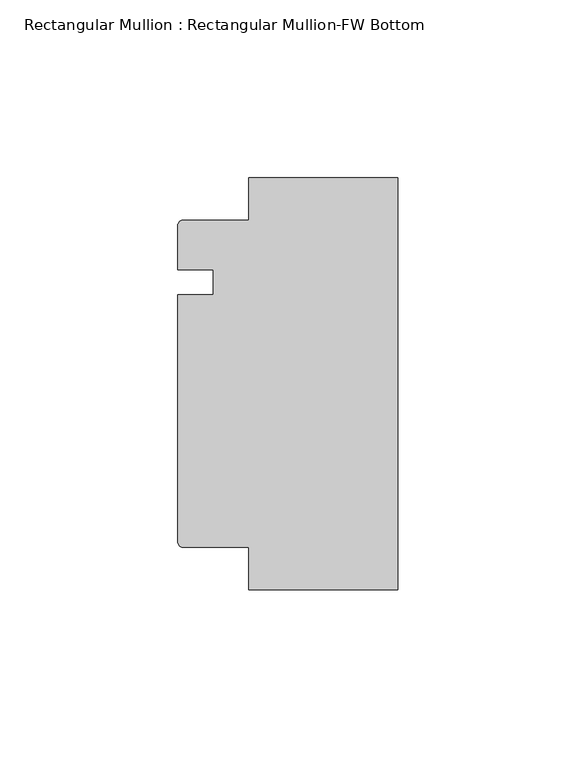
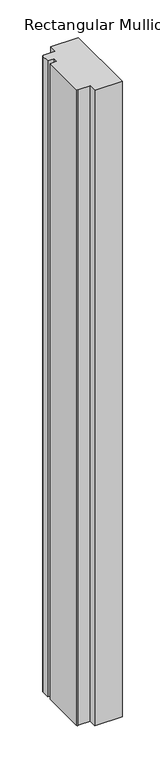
"""IFC4 building model written with IfcOpenShell, lengths in millimetres: member geometry, Rectangular Mullion : Rectangular Mullion-FW Bottom."""

from ifc_helpers import new_model, si_unit, point, frame, frame_2d, origin, place, context, project, spatial, polyline, circle_curve, trimmed, segment, composite_curve, outline, extrude, source, transform, mapped, element, save


def rectangular_mullion_rectangular_mullion_fw_bottom_2e3af1dd(model_context):
    return source(origin(), model_context, "Body", "SweptSolid", [
        extrude(outline(composite_curve([segment(polyline([(-60.5201031, 0.0), (-42.0, 0.0), (-42.0, 12.0), (0.0, 12.0), (0.0, -104.0), (-42.0, -104.0), (-42.0, -92.0), (-60.5201031, -92.0)]), True, "CONTINUOUS"), segment(trimmed(circle_curve(frame_2d((-60.5201031, -90.5201031)), 1.4798969), [point((-60.5201031, -92.0))], [point((-62.0, -90.5201031))], False, "CARTESIAN"), True, "CONTINUOUS"), segment(polyline([(-62.0, -90.5201031), (-62.0, -21.0), (-52.0, -21.0), (-52.0, -14.0), (-62.0, -14.0), (-62.0, -1.4798969)]), True, "CONTINUOUS"), segment(trimmed(circle_curve(frame_2d((-60.5201031, -1.4798969)), 1.4798969), [point((-62.0, -1.4798969))], [point((-60.5201031, 0.0))], False, "CARTESIAN"), True, "CONTINUOUS")], self_intersect=False)), frame((0.0, 0.0, -1028.0), z_axis=(0.0, 0.0, 1.0), x_axis=(1.0, 0.0, 0.0)), (0.0, 0.0, 1.0), 1028.0),
    ])


if __name__ == "__main__":
    model = new_model("IFC4")
    model_context = context("Model", 3, world=origin())
    ifc_project = project(units=[si_unit("LENGTHUNIT", "METRE", prefix="MILLI")], contexts=[model_context])
    site = spatial("IfcSite", under=ifc_project)
    building = spatial("IfcBuilding", under=site)
    placement = place(None, origin())
    rectangular_mullion_rectangular_mullion_fw_bottom_shape = rectangular_mullion_rectangular_mullion_fw_bottom_2e3af1dd(model_context)
    element("IfcMember", 1, ObjectType="Rectangular Mullion : Rectangular Mullion-FW Bottom", at=placement, inside=building, context=model_context, shape_type="MappedRepresentation", body=[
        mapped(rectangular_mullion_rectangular_mullion_fw_bottom_shape, transform((0.0, 0.0, 0.0), x_axis=(1.0, 0.0, 0.0), y_axis=(0.0, 1.0, 0.0), z_axis=(0.0, 0.0, 1.0))),
    ])
    save(model, "model.ifc")
